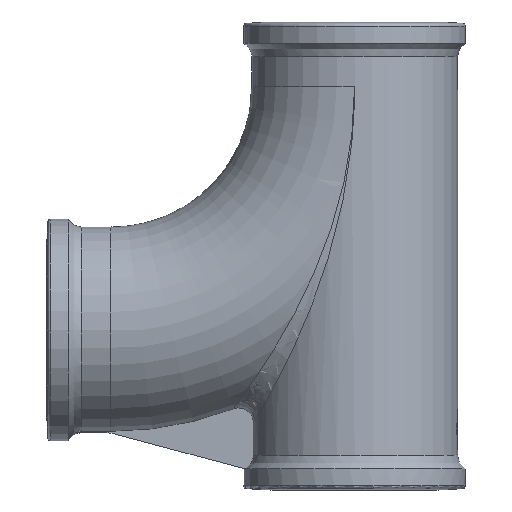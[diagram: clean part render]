
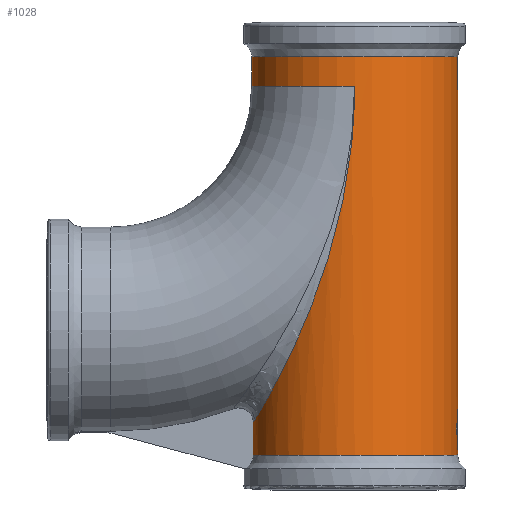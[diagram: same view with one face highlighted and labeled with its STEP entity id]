
A CAD part, front view. The second image highlights one B-rep face of the part: STEP entity #1028.
In plain terms, the highlighted cylindrical face has radius 34.1 mm (diameter 68.2 mm), a full revolution.
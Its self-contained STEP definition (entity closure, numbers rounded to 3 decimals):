
#212=CARTESIAN_POINT('',(34.1,-0.006,-141.844));
#213=VERTEX_POINT('',#212);
#214=CARTESIAN_POINT('',(33.512,-6.304,-134.847));
#215=VERTEX_POINT('',#214);
#216=CARTESIAN_POINT('',(0.0,0.0,-141.851));
#217=DIRECTION('',(0.0,-0.743,-0.669));
#218=DIRECTION('',(0.0,0.669,-0.743));
#219=AXIS2_PLACEMENT_3D('',#216,#217,#218);
#220=ELLIPSE('',#219,50.974,34.1);
#221=EDGE_CURVE('',#213,#215,#220,.T.);
#244=CARTESIAN_POINT('',(34.1,-0.006,-127.849));
#245=VERTEX_POINT('',#244);
#246=CARTESIAN_POINT('',(0.0,0.0,-127.842));
#247=DIRECTION('',(0.0,-0.743,0.669));
#248=DIRECTION('',(0.0,0.669,0.743));
#249=AXIS2_PLACEMENT_3D('',#246,#247,#248);
#250=ELLIPSE('',#249,50.974,34.1);
#251=EDGE_CURVE('',#215,#245,#250,.T.);
#312=CARTESIAN_POINT('',(33.515,6.292,-134.847));
#313=VERTEX_POINT('',#312);
#314=CARTESIAN_POINT('',(0.0,0.0,-141.837));
#315=DIRECTION('',(0.0,0.743,-0.669));
#316=DIRECTION('',(0.0,0.669,0.743));
#317=AXIS2_PLACEMENT_3D('',#314,#315,#316);
#318=ELLIPSE('',#317,50.974,34.1);
#319=EDGE_CURVE('',#313,#213,#318,.T.);
#337=CARTESIAN_POINT('',(0.0,0.0,-127.856));
#338=DIRECTION('',(0.0,0.743,0.669));
#339=DIRECTION('',(0.0,0.669,-0.743));
#340=AXIS2_PLACEMENT_3D('',#337,#338,#339);
#341=ELLIPSE('',#340,50.974,34.1);
#342=EDGE_CURVE('',#245,#313,#341,.T.);
#907=CARTESIAN_POINT('',(0.0,0.0,0.0));
#908=DIRECTION('',(0.0,0.0,-1.0));
#909=DIRECTION('',(-1.0,0.0,0.0));
#910=AXIS2_PLACEMENT_3D('',#907,#908,#909);
#911=CYLINDRICAL_SURFACE('',#910,34.1);
#912=CARTESIAN_POINT('',(-34.1,0.,-11.486));
#913=VERTEX_POINT('',#912);
#914=CARTESIAN_POINT('',(0.0,0.0,-11.486));
#915=DIRECTION('',(0.0,0.0,1.0));
#916=DIRECTION('',(1.0,0.0,0.0));
#917=AXIS2_PLACEMENT_3D('',#914,#915,#916);
#918=CIRCLE('',#917,34.1);
#919=EDGE_CURVE('',#913,#913,#918,.T.);
#920=ORIENTED_EDGE('',*,*,#919,.F.);
#921=EDGE_LOOP('',(#920));
#922=FACE_OUTER_BOUND('',#921,.T.);
#923=CARTESIAN_POINT('',(0.,34.1,-21.3));
#924=VERTEX_POINT('',#923);
#925=CARTESIAN_POINT('',(0.0,-34.1,-21.3));
#926=VERTEX_POINT('',#925);
#927=CARTESIAN_POINT('',(0.0,0.0,-21.3));
#928=DIRECTION('',(0.0,0.0,1.0));
#929=DIRECTION('',(1.0,0.0,0.0));
#930=AXIS2_PLACEMENT_3D('',#927,#928,#929);
#931=CIRCLE('',#930,34.1);
#932=EDGE_CURVE('',#924,#926,#931,.T.);
#933=ORIENTED_EDGE('',*,*,#932,.T.);
#934=CARTESIAN_POINT('',(-33.568,-6.,-132.766));
#935=VERTEX_POINT('',#934);
#936=CARTESIAN_POINT('',(-33.568,-6.,-132.766));
#937=CARTESIAN_POINT('',(-33.488,-6.446,-132.633));
#938=CARTESIAN_POINT('',(-33.313,-7.324,-132.342));
#939=CARTESIAN_POINT('',(-32.899,-9.045,-131.651));
#940=CARTESIAN_POINT('',(-32.272,-11.113,-130.595));
#941=CARTESIAN_POINT('',(-31.374,-13.433,-129.065));
#942=CARTESIAN_POINT('',(-30.038,-16.269,-126.754));
#943=CARTESIAN_POINT('',(-28.52,-18.783,-124.061));
#944=CARTESIAN_POINT('',(-26.904,-20.983,-121.099));
#945=CARTESIAN_POINT('',(-25.53,-22.642,-118.522));
#946=CARTESIAN_POINT('',(-23.436,-24.859,-114.482));
#947=CARTESIAN_POINT('',(-20.886,-27.039,-109.299));
#948=CARTESIAN_POINT('',(-18.531,-28.653,-104.154));
#949=CARTESIAN_POINT('',(-16.917,-29.619,-100.445));
#950=CARTESIAN_POINT('',(-14.557,-30.903,-94.829));
#951=CARTESIAN_POINT('',(-11.223,-32.299,-86.115));
#952=CARTESIAN_POINT('',(-8.025,-33.178,-76.067));
#953=CARTESIAN_POINT('',(-6.105,-33.556,-68.912));
#954=CARTESIAN_POINT('',(-5.104,-33.718,-64.803));
#955=CARTESIAN_POINT('',(-3.698,-33.916,-58.6));
#956=CARTESIAN_POINT('',(-1.953,-34.061,-49.168));
#957=CARTESIAN_POINT('',(-0.718,-34.095,-38.554));
#958=CARTESIAN_POINT('',(-0.169,-34.1,-30.034));
#959=CARTESIAN_POINT('',(-0.041,-34.1,-25.762));
#960=CARTESIAN_POINT('',(-0.005,-34.1,-22.851));
#961=CARTESIAN_POINT('',(0.002,-34.1,-21.882));
#962=CARTESIAN_POINT('',(0.,-34.1,-21.3));
#963=B_SPLINE_CURVE_WITH_KNOTS('',3,(#936,#937,#938,#939,#940,#941,#942,#943,#944,#945,#946,#947,#948,#949,#950,#951,#952,#953,#954,#955,#956,#957,#958,#959,#960,#961,#962),.UNSPECIFIED.,.F.,.U.,(4,1,1,1,1,1,1,1,1,1,1,1,1,1,1,1,1,1,1,1,1,1,2,4),(-12.814,-12.654,-12.494,-12.173,-11.853,-11.533,-10.892,-10.572,-10.251,-9.824,-8.97,-8.329,-8.009,-7.689,-6.407,-5.126,-4.485,-4.165,-3.844,-2.563,-1.281,-0.641,0.0,0.233),.UNSPECIFIED.);
#964=EDGE_CURVE('',#935,#926,#963,.T.);
#965=ORIENTED_EDGE('',*,*,#964,.F.);
#966=CARTESIAN_POINT('',(-33.568,-6.,-143.514));
#967=VERTEX_POINT('',#966);
#968=CARTESIAN_POINT('',(-33.568,-6.,-132.766));
#969=DIRECTION('',(0.,0.,-1.0));
#970=VECTOR('',#969,10.748);
#971=LINE('',#968,#970);
#972=EDGE_CURVE('',#935,#967,#971,.T.);
#973=ORIENTED_EDGE('',*,*,#972,.T.);
#974=CARTESIAN_POINT('',(-33.568,6.,-143.514));
#975=VERTEX_POINT('',#974);
#976=CARTESIAN_POINT('',(0.0,0.0,-143.514));
#977=DIRECTION('',(0.0,0.0,-1.0));
#978=DIRECTION('',(-1.0,0.0,0.0));
#979=AXIS2_PLACEMENT_3D('',#976,#977,#978);
#980=CIRCLE('',#979,34.1);
#981=EDGE_CURVE('',#975,#967,#980,.T.);
#982=ORIENTED_EDGE('',*,*,#981,.F.);
#983=CARTESIAN_POINT('',(-33.568,6.,-132.766));
#984=VERTEX_POINT('',#983);
#985=CARTESIAN_POINT('',(-33.568,6.,-143.514));
#986=DIRECTION('',(0.0,0.0,1.0));
#987=VECTOR('',#986,10.748);
#988=LINE('',#985,#987);
#989=EDGE_CURVE('',#975,#984,#988,.T.);
#990=ORIENTED_EDGE('',*,*,#989,.T.);
#991=CARTESIAN_POINT('',(0.,34.1,-21.3));
#992=CARTESIAN_POINT('',(0.002,34.1,-21.886));
#993=CARTESIAN_POINT('',(-0.005,34.1,-22.863));
#994=CARTESIAN_POINT('',(-0.069,34.1,-27.915));
#995=CARTESIAN_POINT('',(-0.473,34.101,-36.451));
#996=CARTESIAN_POINT('',(-1.71,34.068,-47.067));
#997=CARTESIAN_POINT('',(-3.119,33.964,-55.469));
#998=CARTESIAN_POINT('',(-4.377,33.827,-61.709));
#999=CARTESIAN_POINT('',(-5.834,33.61,-67.906));
#1000=CARTESIAN_POINT('',(-8.396,33.104,-77.45));
#1001=CARTESIAN_POINT('',(-11.251,32.28,-86.104));
#1002=CARTESIAN_POINT('',(-14.194,31.02,-93.816));
#1003=CARTESIAN_POINT('',(-16.242,30.023,-98.908));
#1004=CARTESIAN_POINT('',(-19.297,28.239,-105.959));
#1005=CARTESIAN_POINT('',(-22.305,25.902,-112.225));
#1006=CARTESIAN_POINT('',(-24.547,23.688,-116.626));
#1007=CARTESIAN_POINT('',(-26.133,21.965,-119.671));
#1008=CARTESIAN_POINT('',(-27.732,19.929,-122.632));
#1009=CARTESIAN_POINT('',(-29.277,17.528,-125.405));
#1010=CARTESIAN_POINT('',(-30.366,15.572,-127.321));
#1011=CARTESIAN_POINT('',(-31.376,13.429,-129.069));
#1012=CARTESIAN_POINT('',(-32.273,11.109,-130.597));
#1013=CARTESIAN_POINT('',(-32.897,9.053,-131.647));
#1014=CARTESIAN_POINT('',(-33.311,7.335,-132.338));
#1015=CARTESIAN_POINT('',(-33.488,6.448,-132.633));
#1016=CARTESIAN_POINT('',(-33.568,6.,-132.766));
#1017=B_SPLINE_CURVE_WITH_KNOTS('',3,(#991,#992,#993,#994,#995,#996,#997,#998,#999,#1000,#1001,#1002,#1003,#1004,#1005,#1006,#1007,#1008,#1009,#1010,#1011,#1012,#1013,#1014,#1015,#1016),.UNSPECIFIED.,.F.,.U.,(4,2,1,1,1,1,1,1,1,1,1,1,1,1,1,1,1,1,1,1,1,1,4),(-27.249,-27.015,-25.734,-24.452,-23.812,-23.171,-22.531,-21.89,-20.182,-19.755,-19.328,-18.473,-17.334,-17.05,-16.765,-16.124,-15.804,-15.484,-15.164,-14.843,-14.523,-14.363,-14.203),.UNSPECIFIED.);
#1018=EDGE_CURVE('',#924,#984,#1017,.T.);
#1019=ORIENTED_EDGE('',*,*,#1018,.F.);
#1020=EDGE_LOOP('',(#933,#965,#973,#982,#990,#1019));
#1021=FACE_BOUND('',#1020,.T.);
#1022=ORIENTED_EDGE('',*,*,#221,.T.);
#1023=ORIENTED_EDGE('',*,*,#251,.T.);
#1024=ORIENTED_EDGE('',*,*,#342,.T.);
#1025=ORIENTED_EDGE('',*,*,#319,.T.);
#1026=EDGE_LOOP('',(#1022,#1023,#1024,#1025));
#1027=FACE_BOUND('',#1026,.T.);
#1028=ADVANCED_FACE('',(#922,#1021,#1027),#911,.T.);
